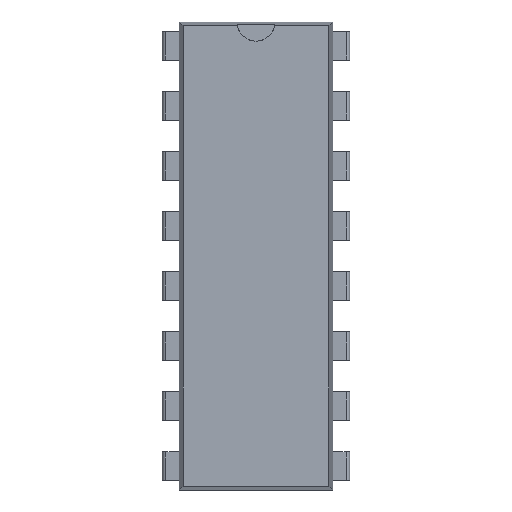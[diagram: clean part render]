
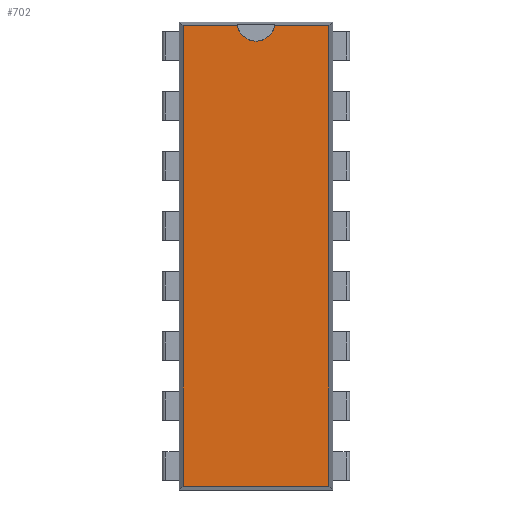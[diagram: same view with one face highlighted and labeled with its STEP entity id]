
A CAD part, top view. The second image highlights one B-rep face of the part: STEP entity #702.
In plain terms, the highlighted planar face has unit normal (0, 0, 1).
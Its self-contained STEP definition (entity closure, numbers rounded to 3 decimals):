
#141 = PLANE('',#142);
#142 = AXIS2_PLACEMENT_3D('',#143,#144,#145);
#143 = CARTESIAN_POINT('',(-3.169,-9.9,3.563));
#144 = DIRECTION('',(0.997,0.,-0.082));
#145 = DIRECTION('',(0.,1.,0.));
#227 = PLANE('',#228);
#228 = AXIS2_PLACEMENT_3D('',#229,#230,#231);
#229 = CARTESIAN_POINT('',(-3.25,-9.819,3.563));
#230 = DIRECTION('',(0.,0.997,
    -0.082));
#231 = DIRECTION('',(-1.,0.,0.));
#324 = VERTEX_POINT('',#325);
#325 = CARTESIAN_POINT('',(-3.088,-9.738,4.55));
#348 = VERTEX_POINT('',#349);
#349 = CARTESIAN_POINT('',(-3.088,9.738,4.55));
#363 = PLANE('',#364);
#364 = AXIS2_PLACEMENT_3D('',#365,#366,#367);
#365 = CARTESIAN_POINT('',(-3.25,9.819,3.563));
#366 = DIRECTION('',(0.,0.997,
    0.082));
#367 = DIRECTION('',(-1.,0.,0.));
#375 = EDGE_CURVE('',#324,#348,#376,.T.);
#376 = SURFACE_CURVE('',#377,(#381,#388),.PCURVE_S1.);
#377 = LINE('',#378,#379);
#378 = CARTESIAN_POINT('',(-3.088,-9.9,4.55));
#379 = VECTOR('',#380,1.);
#380 = DIRECTION('',(0.,1.,0.));
#381 = PCURVE('',#141,#382);
#382 = DEFINITIONAL_REPRESENTATION('',(#383),#387);
#383 = LINE('',#384,#385);
#384 = CARTESIAN_POINT('',(0.,0.991));
#385 = VECTOR('',#386,1.);
#386 = DIRECTION('',(1.,0.));
#387 = ( GEOMETRIC_REPRESENTATION_CONTEXT(2) 
PARAMETRIC_REPRESENTATION_CONTEXT() REPRESENTATION_CONTEXT('2D SPACE',''
  ) );
#388 = PCURVE('',#389,#394);
#389 = PLANE('',#390);
#390 = AXIS2_PLACEMENT_3D('',#391,#392,#393);
#391 = CARTESIAN_POINT('',(-3.25,-9.9,4.55));
#392 = DIRECTION('',(0.,0.,1.));
#393 = DIRECTION('',(1.,0.,0.));
#394 = DEFINITIONAL_REPRESENTATION('',(#395),#399);
#395 = LINE('',#396,#397);
#396 = CARTESIAN_POINT('',(0.163,0.));
#397 = VECTOR('',#398,1.);
#398 = DIRECTION('',(0.,1.));
#399 = ( GEOMETRIC_REPRESENTATION_CONTEXT(2) 
PARAMETRIC_REPRESENTATION_CONTEXT() REPRESENTATION_CONTEXT('2D SPACE',''
  ) );
#517 = PLANE('',#518);
#518 = AXIS2_PLACEMENT_3D('',#519,#520,#521);
#519 = CARTESIAN_POINT('',(3.169,-9.9,3.563));
#520 = DIRECTION('',(0.997,0.,0.082));
#521 = DIRECTION('',(0.,1.,0.));
#584 = VERTEX_POINT('',#585);
#585 = CARTESIAN_POINT('',(3.088,-9.738,4.55));
#606 = EDGE_CURVE('',#324,#584,#607,.T.);
#607 = SURFACE_CURVE('',#608,(#612,#619),.PCURVE_S1.);
#608 = LINE('',#609,#610);
#609 = CARTESIAN_POINT('',(-3.25,-9.738,4.55));
#610 = VECTOR('',#611,1.);
#611 = DIRECTION('',(1.,0.,0.));
#612 = PCURVE('',#227,#613);
#613 = DEFINITIONAL_REPRESENTATION('',(#614),#618);
#614 = LINE('',#615,#616);
#615 = CARTESIAN_POINT('',(-0.,0.991));
#616 = VECTOR('',#617,1.);
#617 = DIRECTION('',(-1.,0.));
#618 = ( GEOMETRIC_REPRESENTATION_CONTEXT(2) 
PARAMETRIC_REPRESENTATION_CONTEXT() REPRESENTATION_CONTEXT('2D SPACE',''
  ) );
#619 = PCURVE('',#389,#620);
#620 = DEFINITIONAL_REPRESENTATION('',(#621),#625);
#621 = LINE('',#622,#623);
#622 = CARTESIAN_POINT('',(0.,0.163));
#623 = VECTOR('',#624,1.);
#624 = DIRECTION('',(1.,0.));
#625 = ( GEOMETRIC_REPRESENTATION_CONTEXT(2) 
PARAMETRIC_REPRESENTATION_CONTEXT() REPRESENTATION_CONTEXT('2D SPACE',''
  ) );
#702 = ADVANCED_FACE('',(#703),#389,.T.);
#703 = FACE_BOUND('',#704,.T.);
#704 = EDGE_LOOP('',(#705,#706,#707,#730,#753,#782));
#705 = ORIENTED_EDGE('',*,*,#375,.F.);
#706 = ORIENTED_EDGE('',*,*,#606,.T.);
#707 = ORIENTED_EDGE('',*,*,#708,.T.);
#708 = EDGE_CURVE('',#584,#709,#711,.T.);
#709 = VERTEX_POINT('',#710);
#710 = CARTESIAN_POINT('',(3.088,9.738,4.55));
#711 = SURFACE_CURVE('',#712,(#716,#723),.PCURVE_S1.);
#712 = LINE('',#713,#714);
#713 = CARTESIAN_POINT('',(3.088,-9.9,4.55));
#714 = VECTOR('',#715,1.);
#715 = DIRECTION('',(0.,1.,0.));
#716 = PCURVE('',#389,#717);
#717 = DEFINITIONAL_REPRESENTATION('',(#718),#722);
#718 = LINE('',#719,#720);
#719 = CARTESIAN_POINT('',(6.338,0.));
#720 = VECTOR('',#721,1.);
#721 = DIRECTION('',(0.,1.));
#722 = ( GEOMETRIC_REPRESENTATION_CONTEXT(2) 
PARAMETRIC_REPRESENTATION_CONTEXT() REPRESENTATION_CONTEXT('2D SPACE',''
  ) );
#723 = PCURVE('',#517,#724);
#724 = DEFINITIONAL_REPRESENTATION('',(#725),#729);
#725 = LINE('',#726,#727);
#726 = CARTESIAN_POINT('',(0.,0.991));
#727 = VECTOR('',#728,1.);
#728 = DIRECTION('',(1.,0.));
#729 = ( GEOMETRIC_REPRESENTATION_CONTEXT(2) 
PARAMETRIC_REPRESENTATION_CONTEXT() REPRESENTATION_CONTEXT('2D SPACE',''
  ) );
#730 = ORIENTED_EDGE('',*,*,#731,.F.);
#731 = EDGE_CURVE('',#732,#709,#734,.T.);
#732 = VERTEX_POINT('',#733);
#733 = CARTESIAN_POINT('',(0.796,9.738,4.55));
#734 = SURFACE_CURVE('',#735,(#739,#746),.PCURVE_S1.);
#735 = LINE('',#736,#737);
#736 = CARTESIAN_POINT('',(-3.25,9.738,4.55));
#737 = VECTOR('',#738,1.);
#738 = DIRECTION('',(1.,0.,0.));
#739 = PCURVE('',#389,#740);
#740 = DEFINITIONAL_REPRESENTATION('',(#741),#745);
#741 = LINE('',#742,#743);
#742 = CARTESIAN_POINT('',(0.,19.638));
#743 = VECTOR('',#744,1.);
#744 = DIRECTION('',(1.,0.));
#745 = ( GEOMETRIC_REPRESENTATION_CONTEXT(2) 
PARAMETRIC_REPRESENTATION_CONTEXT() REPRESENTATION_CONTEXT('2D SPACE',''
  ) );
#746 = PCURVE('',#363,#747);
#747 = DEFINITIONAL_REPRESENTATION('',(#748),#752);
#748 = LINE('',#749,#750);
#749 = CARTESIAN_POINT('',(-0.,0.991));
#750 = VECTOR('',#751,1.);
#751 = DIRECTION('',(-1.,0.));
#752 = ( GEOMETRIC_REPRESENTATION_CONTEXT(2) 
PARAMETRIC_REPRESENTATION_CONTEXT() REPRESENTATION_CONTEXT('2D SPACE',''
  ) );
#753 = ORIENTED_EDGE('',*,*,#754,.F.);
#754 = EDGE_CURVE('',#755,#732,#757,.T.);
#755 = VERTEX_POINT('',#756);
#756 = CARTESIAN_POINT('',(-0.796,9.738,4.55));
#757 = SURFACE_CURVE('',#758,(#763,#770),.PCURVE_S1.);
#758 = CIRCLE('',#759,0.813);
#759 = AXIS2_PLACEMENT_3D('',#760,#761,#762);
#760 = CARTESIAN_POINT('',(0.,9.9,4.55));
#761 = DIRECTION('',(0.,0.,1.));
#762 = DIRECTION('',(1.,0.,0.));
#763 = PCURVE('',#389,#764);
#764 = DEFINITIONAL_REPRESENTATION('',(#765),#769);
#765 = CIRCLE('',#766,0.813);
#766 = AXIS2_PLACEMENT_2D('',#767,#768);
#767 = CARTESIAN_POINT('',(3.25,19.8));
#768 = DIRECTION('',(1.,0.));
#769 = ( GEOMETRIC_REPRESENTATION_CONTEXT(2) 
PARAMETRIC_REPRESENTATION_CONTEXT() REPRESENTATION_CONTEXT('2D SPACE',''
  ) );
#770 = PCURVE('',#771,#776);
#771 = CYLINDRICAL_SURFACE('',#772,0.813);
#772 = AXIS2_PLACEMENT_3D('',#773,#774,#775);
#773 = CARTESIAN_POINT('',(0.,9.9,4.095));
#774 = DIRECTION('',(0.,0.,1.));
#775 = DIRECTION('',(1.,0.,0.));
#776 = DEFINITIONAL_REPRESENTATION('',(#777),#781);
#777 = LINE('',#778,#779);
#778 = CARTESIAN_POINT('',(0.,0.455));
#779 = VECTOR('',#780,1.);
#780 = DIRECTION('',(1.,0.));
#781 = ( GEOMETRIC_REPRESENTATION_CONTEXT(2) 
PARAMETRIC_REPRESENTATION_CONTEXT() REPRESENTATION_CONTEXT('2D SPACE',''
  ) );
#782 = ORIENTED_EDGE('',*,*,#783,.F.);
#783 = EDGE_CURVE('',#348,#755,#784,.T.);
#784 = SURFACE_CURVE('',#785,(#789,#796),.PCURVE_S1.);
#785 = LINE('',#786,#787);
#786 = CARTESIAN_POINT('',(-3.25,9.738,4.55));
#787 = VECTOR('',#788,1.);
#788 = DIRECTION('',(1.,0.,0.));
#789 = PCURVE('',#389,#790);
#790 = DEFINITIONAL_REPRESENTATION('',(#791),#795);
#791 = LINE('',#792,#793);
#792 = CARTESIAN_POINT('',(0.,19.638));
#793 = VECTOR('',#794,1.);
#794 = DIRECTION('',(1.,0.));
#795 = ( GEOMETRIC_REPRESENTATION_CONTEXT(2) 
PARAMETRIC_REPRESENTATION_CONTEXT() REPRESENTATION_CONTEXT('2D SPACE',''
  ) );
#796 = PCURVE('',#363,#797);
#797 = DEFINITIONAL_REPRESENTATION('',(#798),#802);
#798 = LINE('',#799,#800);
#799 = CARTESIAN_POINT('',(-0.,0.991));
#800 = VECTOR('',#801,1.);
#801 = DIRECTION('',(-1.,0.));
#802 = ( GEOMETRIC_REPRESENTATION_CONTEXT(2) 
PARAMETRIC_REPRESENTATION_CONTEXT() REPRESENTATION_CONTEXT('2D SPACE',''
  ) );
